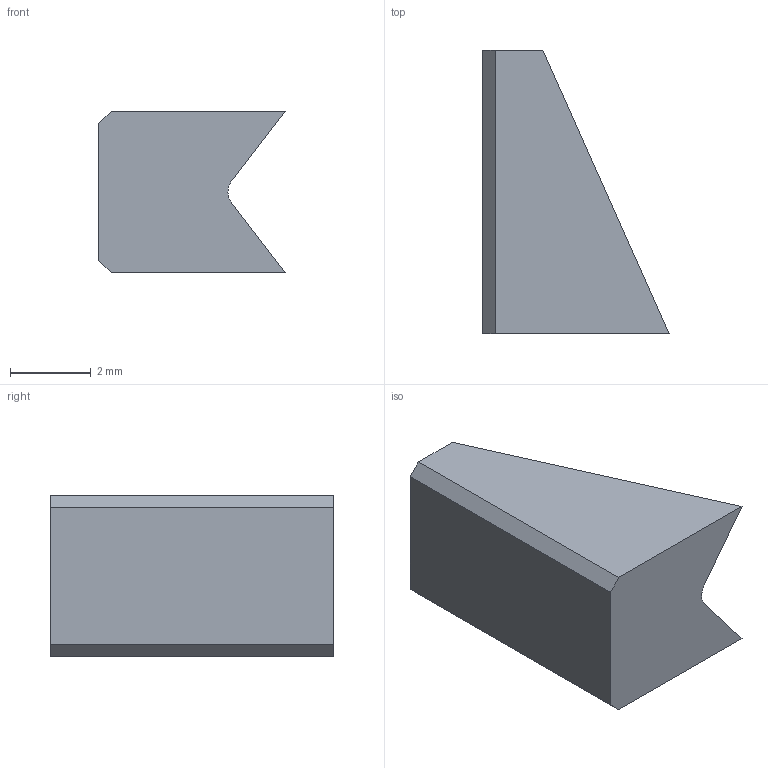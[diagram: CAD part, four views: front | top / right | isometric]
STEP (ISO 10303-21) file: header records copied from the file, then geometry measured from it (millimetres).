
FILE_DESCRIPTION (( 'STEP AP214' ), '1' );
FILE_NAME ('4.STEP', '2024-10-22T07:00:10', ( '' ), ( '' ), 'SwSTEP 2.0', 'SolidWorks 2024', '' );
FILE_SCHEMA (( 'AUTOMOTIVE_DESIGN' ));
Length unit declared in the file: millimetre
Products named in the file (1): 4
Bounding box: 4.6 x 7 x 4 mm (x, y, z)
Volume: 63.2 mm3; surface area: 122.9 mm2
Topology: 1 solids, 1 shells, 11 faces, 27 edges, 18 vertices
Faces by surface type: plane 9, cylinder 2
Entity records: 344 total; most frequent: CARTESIAN_POINT 69, ORIENTED_EDGE 54, DIRECTION 47, EDGE_CURVE 27, LINE 23, VECTOR 23, VERTEX_POINT 18, AXIS2_PLACEMENT_3D 12
